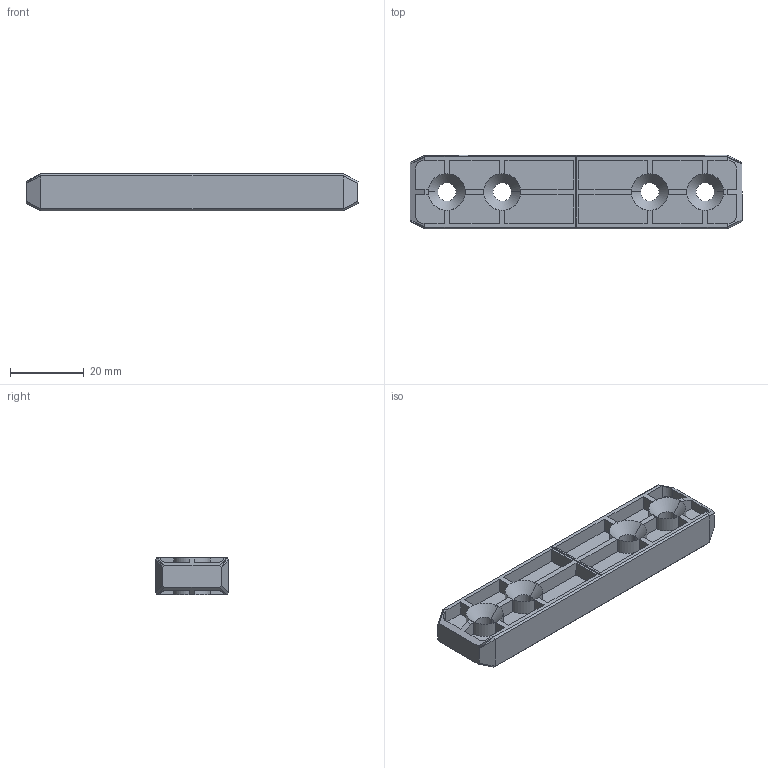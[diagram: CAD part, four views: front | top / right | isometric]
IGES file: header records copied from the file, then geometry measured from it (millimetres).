
Start section: 3D InterOp IGES (v. 2022 1.0.1), Spatial Corp. Copyright (c) 1999-2020.
Global section: file name: E545-S_11.05.825-0 Stabilizer Stick For Click Button System Grey PC.igs; native system: Spatial Corp.; preprocessor: 3D InterOp GENERIC/IGES 3.0; author: Noname; organization: Noname; date: 20251208.165958; units: millimetre
Bounding box: 90 x 20 x 10.2 mm (x, y, z)
Surface area: 9465.1 mm2 (no closed solid volume)
Topology: 0 solids, 0 shells, 223 faces, 1210 edges, 1210 vertices
Faces by surface type: extrusion 159, revolution 64
